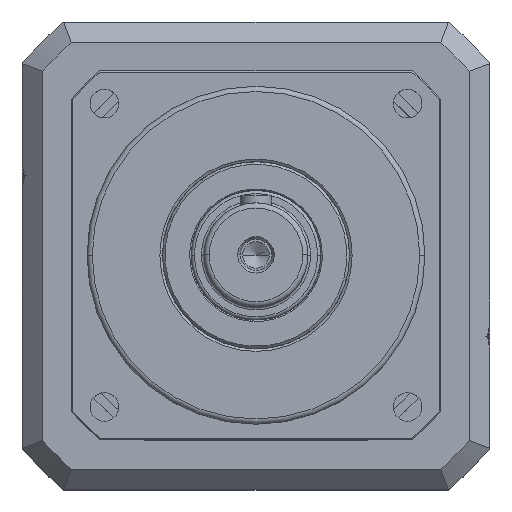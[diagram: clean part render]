
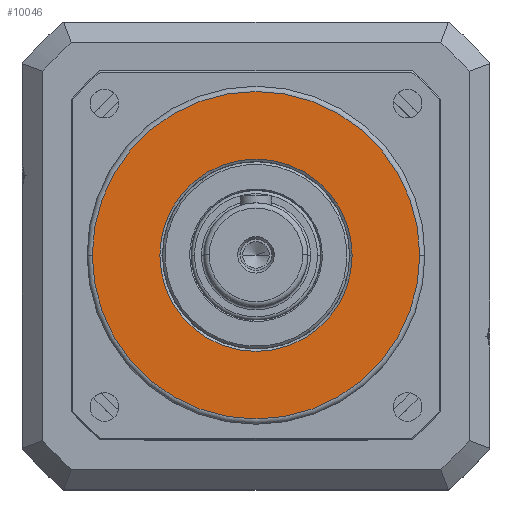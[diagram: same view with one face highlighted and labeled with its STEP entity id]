
A CAD part, top view. The second image highlights one B-rep face of the part: STEP entity #10046.
In plain terms, the highlighted planar face has unit normal (0, 0, 1).
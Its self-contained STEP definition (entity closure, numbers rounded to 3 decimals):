
#132 = AXIS2_PLACEMENT_3D ( 'NONE', #26941, #7040, #12265 ) ;
#273 = DIRECTION ( 'NONE',  ( 1., 0., 0. ) ) ;
#2283 = ORIENTED_EDGE ( 'NONE', *, *, #21954, .T. ) ;
#2891 = DIRECTION ( 'NONE',  ( 0., 0., -1. ) ) ;
#3995 = CIRCLE ( 'NONE', #10941, 63. ) ;
#4462 = CARTESIAN_POINT ( 'NONE',  ( 63., 0., 15. ) ) ;
#4549 = CARTESIAN_POINT ( 'NONE',  ( -63., 0., 15. ) ) ;
#5136 = AXIS2_PLACEMENT_3D ( 'NONE', #24933, #2891, #273 ) ;
#6356 = VERTEX_POINT ( 'NONE', #15632 ) ;
#6580 = CARTESIAN_POINT ( 'NONE',  ( 0., 0., 15. ) ) ;
#6859 = FACE_BOUND ( 'NONE', #26879, .T. ) ;
#7040 = DIRECTION ( 'NONE',  ( 0., 0., 1. ) ) ;
#7117 = DIRECTION ( 'NONE',  ( 0., 0., -1. ) ) ;
#8488 = EDGE_CURVE ( 'NONE', #9605, #14157, #12630, .T. ) ;
#9605 = VERTEX_POINT ( 'NONE', #4462 ) ;
#10046 = ADVANCED_FACE ( 'NONE', ( #6859, #15717 ), #11511, .T. ) ;
#10941 = AXIS2_PLACEMENT_3D ( 'NONE', #22900, #21950, #27836 ) ;
#11511 = PLANE ( 'NONE',  #24322 ) ;
#12265 = DIRECTION ( 'NONE',  ( 1., 0., 0. ) ) ;
#12630 = CIRCLE ( 'NONE', #132, 63. ) ;
#14157 = VERTEX_POINT ( 'NONE', #4549 ) ;
#14329 = ORIENTED_EDGE ( 'NONE', *, *, #23769, .T. ) ;
#14578 = EDGE_CURVE ( 'NONE', #26816, #6356, #27728, .T. ) ;
#15189 = AXIS2_PLACEMENT_3D ( 'NONE', #19892, #7117, #20189 ) ;
#15632 = CARTESIAN_POINT ( 'NONE',  ( 37., 0., 15. ) ) ;
#15717 = FACE_OUTER_BOUND ( 'NONE', #20446, .T. ) ;
#15778 = CIRCLE ( 'NONE', #5136, 37. ) ;
#16953 = CARTESIAN_POINT ( 'NONE',  ( -37., 0., 15. ) ) ;
#17609 = ORIENTED_EDGE ( 'NONE', *, *, #8488, .T. ) ;
#19790 = DIRECTION ( 'NONE',  ( 0., 0., 1. ) ) ;
#19892 = CARTESIAN_POINT ( 'NONE',  ( 0., 0., 15. ) ) ;
#20189 = DIRECTION ( 'NONE',  ( 1., 0., 0. ) ) ;
#20446 = EDGE_LOOP ( 'NONE', ( #17609, #2283 ) ) ;
#21594 = ORIENTED_EDGE ( 'NONE', *, *, #14578, .T. ) ;
#21950 = DIRECTION ( 'NONE',  ( 0., 0., 1. ) ) ;
#21954 = EDGE_CURVE ( 'NONE', #14157, #9605, #3995, .T. ) ;
#22404 = DIRECTION ( 'NONE',  ( 1., 0., 0. ) ) ;
#22900 = CARTESIAN_POINT ( 'NONE',  ( 0., 0., 15. ) ) ;
#23769 = EDGE_CURVE ( 'NONE', #6356, #26816, #15778, .T. ) ;
#24322 = AXIS2_PLACEMENT_3D ( 'NONE', #6580, #19790, #22404 ) ;
#24933 = CARTESIAN_POINT ( 'NONE',  ( 0., 0., 15. ) ) ;
#26816 = VERTEX_POINT ( 'NONE', #16953 ) ;
#26879 = EDGE_LOOP ( 'NONE', ( #14329, #21594 ) ) ;
#26941 = CARTESIAN_POINT ( 'NONE',  ( 0., 0., 15. ) ) ;
#27728 = CIRCLE ( 'NONE', #15189, 37. ) ;
#27836 = DIRECTION ( 'NONE',  ( 1., 0., 0. ) ) ;
